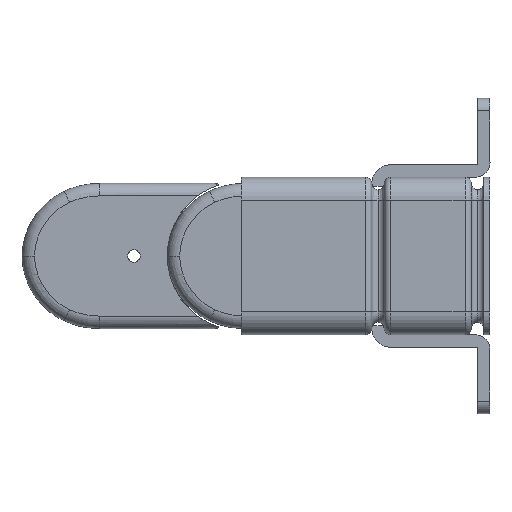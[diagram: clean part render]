
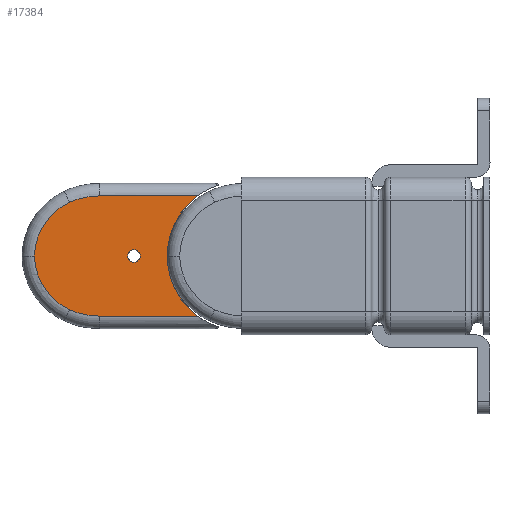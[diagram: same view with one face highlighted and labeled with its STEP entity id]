
A CAD part, left-side view. The second image highlights one B-rep face of the part: STEP entity #17384.
In plain terms, the highlighted free-form (B-spline) face has degree [1, 1] with [2, 2] control points.
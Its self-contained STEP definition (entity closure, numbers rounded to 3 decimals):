
#11767=CARTESIAN_POINT('',(-7.335,-14.5,50.0));
#11768=VERTEX_POINT('',#11767);
#11785=CARTESIAN_POINT('',(-7.335,14.5,50.0));
#11786=VERTEX_POINT('',#11785);
#11787=CARTESIAN_POINT('',(-18.0,0.,50.0));
#11788=DIRECTION('',(0.,0.,-1.));
#11789=DIRECTION('',(-0.306,0.952,0.));
#11790=AXIS2_PLACEMENT_3D('',#11787,#11788,#11789);
#11791=CIRCLE('',#11790,18.);
#11792=EDGE_CURVE('',#11786,#11768,#11791,.T.);
#12248=CARTESIAN_POINT('',(9.5,0.,50.0));
#12249=VERTEX_POINT('',#12248);
#12250=CARTESIAN_POINT('',(8.,0.,50.0));
#12251=DIRECTION('',(0.0,0.0,-1.0));
#12252=DIRECTION('',(-1.0,0.0,0.0));
#12253=AXIS2_PLACEMENT_3D('',#12250,#12251,#12252);
#12254=CIRCLE('',#12253,1.5);
#12255=EDGE_CURVE('',#12249,#12249,#12254,.T.);
#17004=CARTESIAN_POINT('',(16.4,-14.5,50.0));
#17005=VERTEX_POINT('',#17004);
#17013=CARTESIAN_POINT('',(16.4,-14.5,50.0));
#17014=DIRECTION('',(-1.0,0.0,0.0));
#17015=VECTOR('',#17014,23.735);
#17016=LINE('',#17013,#17015);
#17017=EDGE_CURVE('',#17005,#11768,#17016,.T.);
#17205=CARTESIAN_POINT('',(23.529,-12.933,50.0));
#17206=VERTEX_POINT('',#17205);
#17222=CARTESIAN_POINT('',(16.4,2.5,50.0));
#17223=DIRECTION('',(0.,0.,-1.0));
#17224=DIRECTION('',(0.215,-0.977,0.));
#17225=AXIS2_PLACEMENT_3D('',#17222,#17223,#17224);
#17226=CIRCLE('',#17225,17.0);
#17227=EDGE_CURVE('',#17206,#17005,#17226,.T.);
#17237=CARTESIAN_POINT('',(32.,0.,50.0));
#17238=VERTEX_POINT('',#17237);
#17239=CARTESIAN_POINT('',(17.502,0.255,50.0));
#17240=DIRECTION('',(0.,0.,-1.0));
#17241=DIRECTION('',(0.837,-0.546,0.));
#17242=AXIS2_PLACEMENT_3D('',#17239,#17240,#17241);
#17243=CIRCLE('',#17242,14.5);
#17244=EDGE_CURVE('',#17238,#17206,#17243,.T.);
#17279=CARTESIAN_POINT('',(23.529,12.933,50.0));
#17280=VERTEX_POINT('',#17279);
#17281=CARTESIAN_POINT('',(17.502,-0.255,50.0));
#17282=DIRECTION('',(0.,0.,-1.0));
#17283=DIRECTION('',(0.837,0.546,0.));
#17284=AXIS2_PLACEMENT_3D('',#17281,#17282,#17283);
#17285=CIRCLE('',#17284,14.5);
#17286=EDGE_CURVE('',#17280,#17238,#17285,.T.);
#17328=CARTESIAN_POINT('',(16.4,14.5,50.0));
#17329=VERTEX_POINT('',#17328);
#17337=CARTESIAN_POINT('',(16.4,-2.5,50.0));
#17338=DIRECTION('',(0.,0.,-1.));
#17339=DIRECTION('',(0.215,0.977,0.));
#17340=AXIS2_PLACEMENT_3D('',#17337,#17338,#17339);
#17341=CIRCLE('',#17340,17.);
#17342=EDGE_CURVE('',#17329,#17280,#17341,.T.);
#17356=CARTESIAN_POINT('',(-7.335,14.5,50.0));
#17357=DIRECTION('',(1.0,0.0,0.0));
#17358=VECTOR('',#17357,23.735);
#17359=LINE('',#17356,#17358);
#17360=EDGE_CURVE('',#11786,#17329,#17359,.T.);
#17367=CARTESIAN_POINT('',(-7.335,14.5,50.0));
#17368=CARTESIAN_POINT('',(32.,14.5,50.0));
#17369=CARTESIAN_POINT('',(-7.335,-14.5,50.0));
#17370=CARTESIAN_POINT('',(32.,-14.5,50.0));
#17371=B_SPLINE_SURFACE_WITH_KNOTS('',1,1,((#17367,#17369),(#17368,#17370)),.UNSPECIFIED.,.F.,.F.,.U.,(2,2),(2,2),(0.0,39.334),(0.0,29.),.UNSPECIFIED.);
#17372=ORIENTED_EDGE('',*,*,#17017,.F.);
#17373=ORIENTED_EDGE('',*,*,#17227,.F.);
#17374=ORIENTED_EDGE('',*,*,#17244,.F.);
#17375=ORIENTED_EDGE('',*,*,#17286,.F.);
#17376=ORIENTED_EDGE('',*,*,#17342,.F.);
#17377=ORIENTED_EDGE('',*,*,#17360,.F.);
#17378=ORIENTED_EDGE('',*,*,#11792,.T.);
#17379=EDGE_LOOP('',(#17372,#17373,#17374,#17375,#17376,#17377,#17378));
#17380=FACE_OUTER_BOUND('',#17379,.T.);
#17381=ORIENTED_EDGE('',*,*,#12255,.T.);
#17382=EDGE_LOOP('',(#17381));
#17383=FACE_BOUND('',#17382,.T.);
#17384=ADVANCED_FACE('',(#17380,#17383),#17371,.F.);
